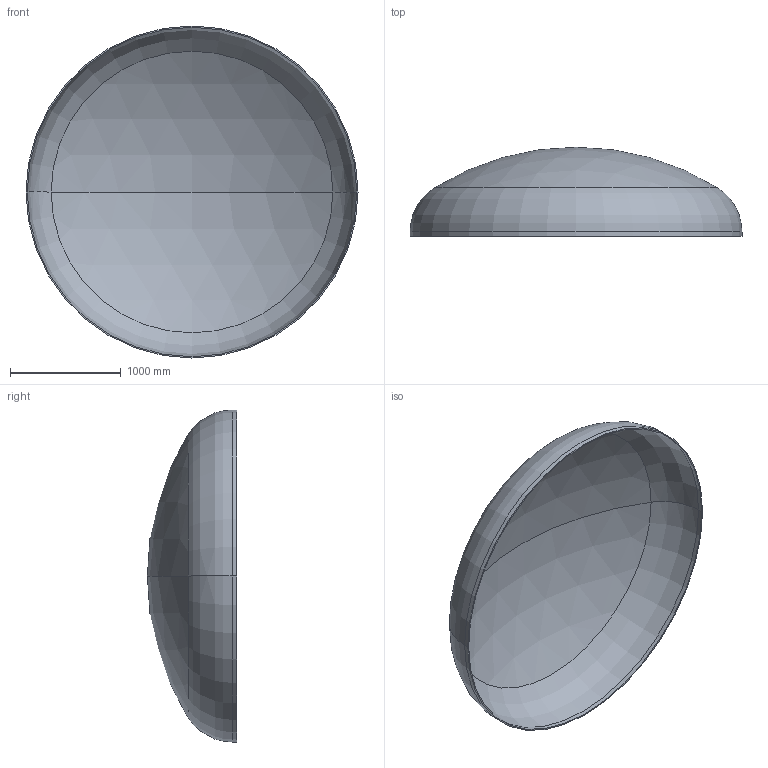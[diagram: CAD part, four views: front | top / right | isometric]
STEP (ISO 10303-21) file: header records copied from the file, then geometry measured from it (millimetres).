
FILE_DESCRIPTION (( 'STEP AP203' ), '1' );
FILE_NAME ('DIN 28013 Korbbogenform_-_Boden DIN 28013 - 3000 x 40 - I - s=11.step', '2016-07-01T17:28:56', ( '' ), ( '' ), 'SwSTEP 2.0', 'SolidWorks 2013', '' );
FILE_SCHEMA (( 'CONFIG_CONTROL_DESIGN' ));
Length unit declared in the file: millimetre
Products named in the file (1): DIN 28013 Korbbogenform_-_Boden DIN 28013 - 3000 x 40 - I - s=11
Bounding box: 3000 x 806.38 x 3000 mm (x, y, z)
Volume: 111215611.9 mm3; surface area: 20324558.1 mm2
Topology: 1 solids, 1 shells, 13 faces, 24 edges, 14 vertices
Faces by surface type: torus 4, cylinder 4, sphere 4, plane 1
Entity records: 407 total; most frequent: DIRECTION 72, CARTESIAN_POINT 52, ORIENTED_EDGE 48, AXIS2_PLACEMENT_3D 34, EDGE_CURVE 24, CIRCLE 20, VERTEX_POINT 14, EDGE_LOOP 14
